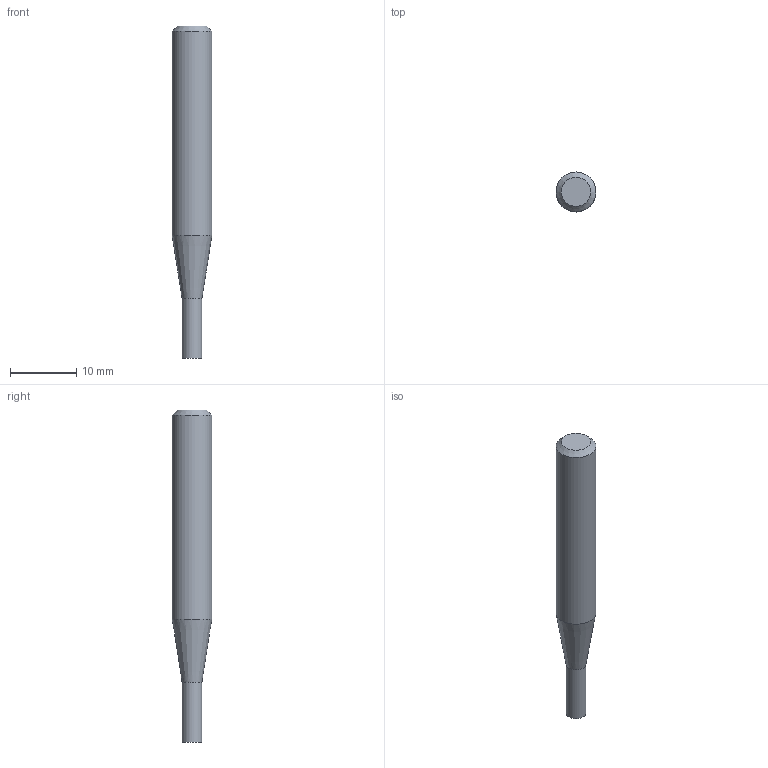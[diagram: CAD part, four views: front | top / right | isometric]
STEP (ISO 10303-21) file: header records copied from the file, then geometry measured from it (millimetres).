
FILE_DESCRIPTION((''),'2;1');
FILE_NAME('C:\Users\nsx150\Desktop\RSE230_20210427\01-00644-03001 RSE230 D3X9Xd6.step','2021-05-07T14:53:51',(''),(''),'STEP Write','Mastercam 2021 ... CNC Software, Inc.','');
FILE_SCHEMA(('AUTOMOTIVE_DESIGN'));
Length unit declared in the file: millimetre
Products named in the file (1): None
Bounding box: 6 x 6 x 50 mm (x, y, z)
Volume: 1105.8 mm3; surface area: 854.5 mm2
Topology: 2 solids, 2 shells, 8 faces, 10 edges, 6 vertices
Faces by surface type: plane 4, cylinder 2, cone 2
Full cylindrical faces by diameter (mm): 3 x1, 6 x1
Entity records: 190 total; most frequent: DIRECTION 32, CARTESIAN_POINT 22, AXIS2_PLACEMENT_3D 16, ORIENTED_EDGE 12, EDGE_LOOP 12, STYLED_ITEM 11, ADVANCED_FACE 8, VERTEX_POINT 6
